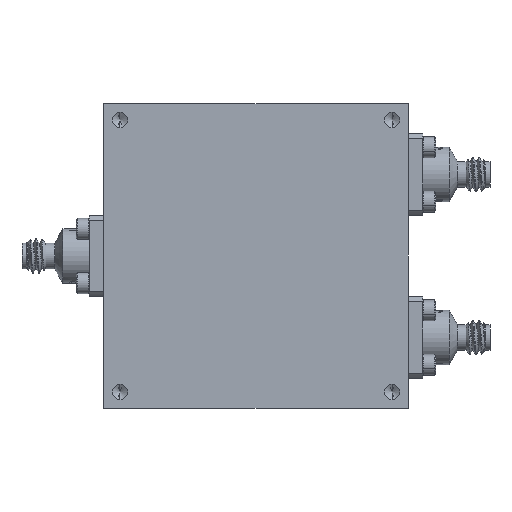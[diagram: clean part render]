
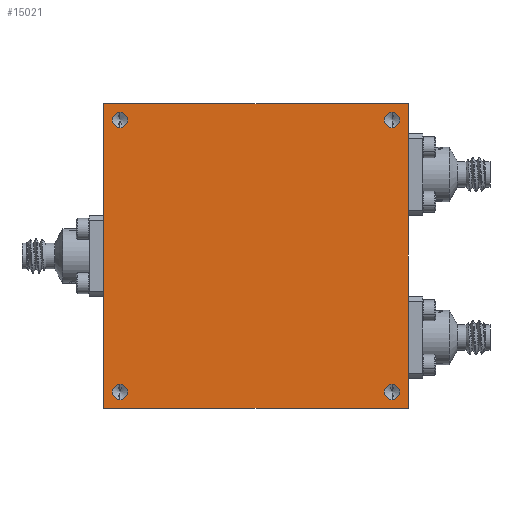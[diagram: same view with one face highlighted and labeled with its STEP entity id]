
A CAD part, front view. The second image highlights one B-rep face of the part: STEP entity #15021.
In plain terms, the highlighted planar face has unit normal (0, -1, 0).
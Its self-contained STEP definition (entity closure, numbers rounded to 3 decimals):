
#340 = DIRECTION ( 'NONE',  ( 0., 1., 0. ) ) ;
#384 = DIRECTION ( 'NONE',  ( 0., -1., 0. ) ) ;
#386 = EDGE_CURVE ( 'NONE', #10228, #826, #9202, .T. ) ;
#488 = CARTESIAN_POINT ( 'NONE',  ( -17.78, 0., -17.78 ) ) ;
#599 = EDGE_LOOP ( 'NONE', ( #3728, #1099 ) ) ;
#763 = EDGE_CURVE ( 'NONE', #826, #10870, #10771, .T. ) ;
#826 = VERTEX_POINT ( 'NONE', #4105 ) ;
#1099 = ORIENTED_EDGE ( 'NONE', *, *, #13577, .F. ) ;
#1147 = CARTESIAN_POINT ( 'NONE',  ( -17.78, 0., 17.78 ) ) ;
#1361 = EDGE_CURVE ( 'NONE', #14958, #8734, #7376, .T. ) ;
#1616 = FACE_BOUND ( 'NONE', #3331, .T. ) ;
#1797 = DIRECTION ( 'NONE',  ( 0., 0., -1. ) ) ;
#1864 = FACE_BOUND ( 'NONE', #9800, .T. ) ;
#1897 = CARTESIAN_POINT ( 'NONE',  ( -15.875, 0., -15.875 ) ) ;
#2449 = DIRECTION ( 'NONE',  ( 0., 0., -1. ) ) ;
#2567 = AXIS2_PLACEMENT_3D ( 'NONE', #5289, #10365, #15423 ) ;
#2745 = CARTESIAN_POINT ( 'NONE',  ( 15.875, 0., -16.764 ) ) ;
#2904 = DIRECTION ( 'NONE',  ( 1., 0., 0. ) ) ;
#3067 = CARTESIAN_POINT ( 'NONE',  ( 15.875, 0., -15.875 ) ) ;
#3081 = CARTESIAN_POINT ( 'NONE',  ( 0., 0., 0. ) ) ;
#3082 = CIRCLE ( 'NONE', #16351, 0.889 ) ;
#3146 = DIRECTION ( 'NONE',  ( -1., 0., 0. ) ) ;
#3331 = EDGE_LOOP ( 'NONE', ( #4271, #15293 ) ) ;
#3419 = CARTESIAN_POINT ( 'NONE',  ( -15.875, 0., -14.986 ) ) ;
#3671 = CARTESIAN_POINT ( 'NONE',  ( 15.875, 0., 15.875 ) ) ;
#3728 = ORIENTED_EDGE ( 'NONE', *, *, #5573, .F. ) ;
#4045 = VERTEX_POINT ( 'NONE', #9605 ) ;
#4105 = CARTESIAN_POINT ( 'NONE',  ( 17.78, 0., 17.78 ) ) ;
#4134 = CARTESIAN_POINT ( 'NONE',  ( -15.875, 0., 15.875 ) ) ;
#4224 = DIRECTION ( 'NONE',  ( 0., 0., -1. ) ) ;
#4235 = VERTEX_POINT ( 'NONE', #6360 ) ;
#4236 = ORIENTED_EDGE ( 'NONE', *, *, #386, .F. ) ;
#4238 = CARTESIAN_POINT ( 'NONE',  ( -17.78, 0., -17.78 ) ) ;
#4271 = ORIENTED_EDGE ( 'NONE', *, *, #13868, .F. ) ;
#4280 = DIRECTION ( 'NONE',  ( 0., -1., 0. ) ) ;
#4434 = VECTOR ( 'NONE', #3146, 1000. ) ;
#4608 = DIRECTION ( 'NONE',  ( 0., -1., 0. ) ) ;
#4898 = CARTESIAN_POINT ( 'NONE',  ( 17.78, 0., -17.78 ) ) ;
#4940 = CIRCLE ( 'NONE', #14224, 0.889 ) ;
#5019 = VERTEX_POINT ( 'NONE', #4238 ) ;
#5289 = CARTESIAN_POINT ( 'NONE',  ( 15.875, 0., -15.875 ) ) ;
#5405 = DIRECTION ( 'NONE',  ( 0., 0., 1. ) ) ;
#5573 = EDGE_CURVE ( 'NONE', #4235, #7796, #14151, .T. ) ;
#6360 = CARTESIAN_POINT ( 'NONE',  ( -15.875, 0., -16.764 ) ) ;
#6472 = DIRECTION ( 'NONE',  ( 0., -1., 0. ) ) ;
#6545 = DIRECTION ( 'NONE',  ( 0., -1., 0. ) ) ;
#6562 = VECTOR ( 'NONE', #4224, 1000. ) ;
#6591 = CARTESIAN_POINT ( 'NONE',  ( -15.875, 0., -15.875 ) ) ;
#6599 = AXIS2_PLACEMENT_3D ( 'NONE', #3067, #6472, #11773 ) ;
#6835 = EDGE_CURVE ( 'NONE', #8500, #8411, #7227, .T. ) ;
#7227 = CIRCLE ( 'NONE', #15206, 0.889 ) ;
#7376 = CIRCLE ( 'NONE', #6599, 0.889 ) ;
#7383 = ORIENTED_EDGE ( 'NONE', *, *, #14200, .F. ) ;
#7796 = VERTEX_POINT ( 'NONE', #3419 ) ;
#7833 = AXIS2_PLACEMENT_3D ( 'NONE', #6591, #10000, #15062 ) ;
#8170 = ORIENTED_EDGE ( 'NONE', *, *, #10133, .F. ) ;
#8225 = FACE_BOUND ( 'NONE', #9142, .T. ) ;
#8332 = DIRECTION ( 'NONE',  ( 0., 0., -1. ) ) ;
#8411 = VERTEX_POINT ( 'NONE', #11894 ) ;
#8500 = VERTEX_POINT ( 'NONE', #13465 ) ;
#8629 = VECTOR ( 'NONE', #2904, 1000. ) ;
#8734 = VERTEX_POINT ( 'NONE', #2745 ) ;
#9029 = EDGE_LOOP ( 'NONE', ( #9490, #8170, #12816, #4236 ) ) ;
#9142 = EDGE_LOOP ( 'NONE', ( #15272, #9827 ) ) ;
#9178 = DIRECTION ( 'NONE',  ( 0., 0., -1. ) ) ;
#9202 = LINE ( 'NONE', #14273, #8629 ) ;
#9226 = FACE_BOUND ( 'NONE', #599, .T. ) ;
#9460 = LINE ( 'NONE', #14519, #4434 ) ;
#9490 = ORIENTED_EDGE ( 'NONE', *, *, #12680, .F. ) ;
#9605 = CARTESIAN_POINT ( 'NONE',  ( 15.875, 0., 16.764 ) ) ;
#9800 = EDGE_LOOP ( 'NONE', ( #7383, #13556 ) ) ;
#9827 = ORIENTED_EDGE ( 'NONE', *, *, #1361, .F. ) ;
#9993 = AXIS2_PLACEMENT_3D ( 'NONE', #3081, #340, #5405 ) ;
#10000 = DIRECTION ( 'NONE',  ( 0., -1., 0. ) ) ;
#10052 = VECTOR ( 'NONE', #15934, 1000. ) ;
#10133 = EDGE_CURVE ( 'NONE', #10870, #5019, #9460, .T. ) ;
#10228 = VERTEX_POINT ( 'NONE', #1147 ) ;
#10365 = DIRECTION ( 'NONE',  ( 0., -1., 0. ) ) ;
#10501 = CARTESIAN_POINT ( 'NONE',  ( 15.875, 0., 14.986 ) ) ;
#10509 = AXIS2_PLACEMENT_3D ( 'NONE', #3671, #6545, #11610 ) ;
#10771 = LINE ( 'NONE', #11748, #6562 ) ;
#10772 = CIRCLE ( 'NONE', #7833, 0.889 ) ;
#10870 = VERTEX_POINT ( 'NONE', #4898 ) ;
#11610 = DIRECTION ( 'NONE',  ( 0., 0., -1. ) ) ;
#11707 = PLANE ( 'NONE',  #9993 ) ;
#11748 = CARTESIAN_POINT ( 'NONE',  ( 17.78, 0., -17.78 ) ) ;
#11773 = DIRECTION ( 'NONE',  ( 0., 0., -1. ) ) ;
#11818 = CIRCLE ( 'NONE', #10509, 0.889 ) ;
#11848 = LINE ( 'NONE', #488, #10052 ) ;
#11876 = FACE_OUTER_BOUND ( 'NONE', #9029, .T. ) ;
#11894 = CARTESIAN_POINT ( 'NONE',  ( -15.875, 0., 14.986 ) ) ;
#12680 = EDGE_CURVE ( 'NONE', #5019, #10228, #11848, .T. ) ;
#12816 = ORIENTED_EDGE ( 'NONE', *, *, #763, .F. ) ;
#13094 = AXIS2_PLACEMENT_3D ( 'NONE', #1897, #4608, #8332 ) ;
#13465 = CARTESIAN_POINT ( 'NONE',  ( -15.875, 0., 16.764 ) ) ;
#13556 = ORIENTED_EDGE ( 'NONE', *, *, #6835, .F. ) ;
#13577 = EDGE_CURVE ( 'NONE', #7796, #4235, #10772, .T. ) ;
#13868 = EDGE_CURVE ( 'NONE', #14640, #4045, #11818, .T. ) ;
#13965 = CIRCLE ( 'NONE', #2567, 0.889 ) ;
#14088 = EDGE_CURVE ( 'NONE', #8734, #14958, #13965, .T. ) ;
#14151 = CIRCLE ( 'NONE', #13094, 0.889 ) ;
#14200 = EDGE_CURVE ( 'NONE', #8411, #8500, #3082, .T. ) ;
#14224 = AXIS2_PLACEMENT_3D ( 'NONE', #16079, #14820, #2449 ) ;
#14273 = CARTESIAN_POINT ( 'NONE',  ( -17.78, 0., 17.78 ) ) ;
#14499 = EDGE_CURVE ( 'NONE', #4045, #14640, #4940, .T. ) ;
#14519 = CARTESIAN_POINT ( 'NONE',  ( -17.78, 0., -17.78 ) ) ;
#14640 = VERTEX_POINT ( 'NONE', #10501 ) ;
#14820 = DIRECTION ( 'NONE',  ( 0., -1., 0. ) ) ;
#14958 = VERTEX_POINT ( 'NONE', #15548 ) ;
#15021 = ADVANCED_FACE ( 'NONE', ( #8225, #9226, #1864, #1616, #11876 ), #11707, .F. ) ;
#15062 = DIRECTION ( 'NONE',  ( 0., 0., -1. ) ) ;
#15206 = AXIS2_PLACEMENT_3D ( 'NONE', #15570, #4280, #1797 ) ;
#15272 = ORIENTED_EDGE ( 'NONE', *, *, #14088, .F. ) ;
#15293 = ORIENTED_EDGE ( 'NONE', *, *, #14499, .F. ) ;
#15423 = DIRECTION ( 'NONE',  ( 0., 0., -1. ) ) ;
#15548 = CARTESIAN_POINT ( 'NONE',  ( 15.875, 0., -14.986 ) ) ;
#15570 = CARTESIAN_POINT ( 'NONE',  ( -15.875, 0., 15.875 ) ) ;
#15934 = DIRECTION ( 'NONE',  ( 0., 0., 1. ) ) ;
#16079 = CARTESIAN_POINT ( 'NONE',  ( 15.875, 0., 15.875 ) ) ;
#16351 = AXIS2_PLACEMENT_3D ( 'NONE', #4134, #384, #9178 ) ;
